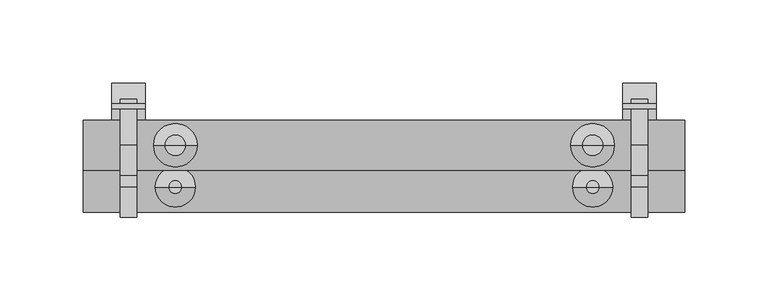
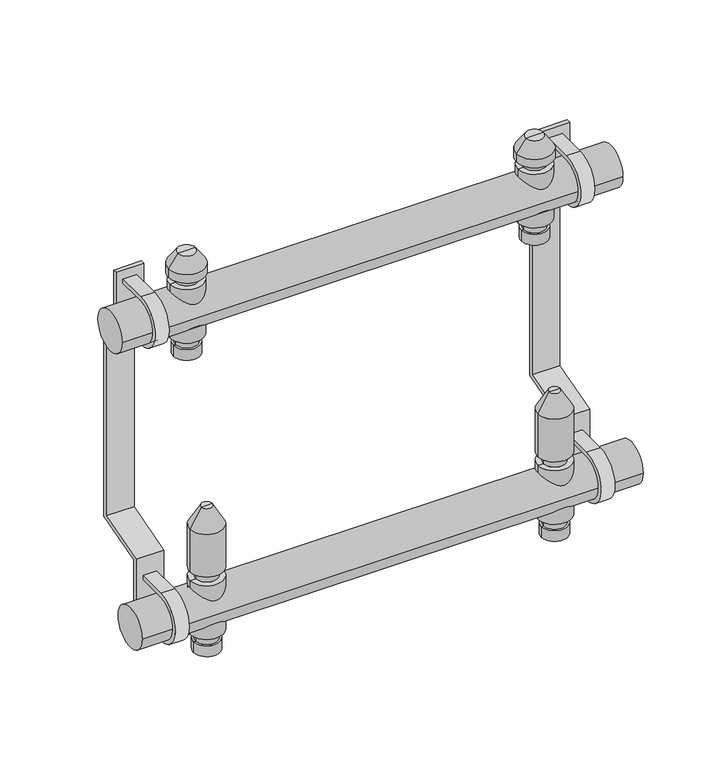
"""IFC4 building model written with IfcOpenShell, lengths in millimetres: valve geometry, PL CZ_Manifold_FT-VA : 06 circuits."""

from ifc_helpers import new_model, si_unit, point, frame, frame_2d, origin, origin_2d, place, context, project, spatial, polyline, circle_curve, trimmed, segment, composite_curve, outline, extrude, source, transform, mapped, element, save
from ifc_brep_helpers import plane_surface, cylinder_surface, revolved_surface, advanced_brep


def valve_c1a5959c(model_context):
    return source(origin(), model_context, "Body", "SolidModel", [
        advanced_brep(
        [(278.5, 0.0, -35.11267), (297.5, 0.0, -35.11267), (288.0, 0.0, -35.11267), (278.5, 0.0, -27.0369646), (297.5, 0.0, -27.0369646), (280.0, 0.0, -27.0369646), (296.0, 0.0, -27.0369646), (280.0, 0.0, -20.330253), (296.0, 0.0, -20.330253), (276.0, 0.0, -20.330253), (300.0, 0.0, -20.330253), (276.0, 0.0, 20.330253), (300.0, 0.0, 20.330253), (280.0, 0.0, 20.330253), (296.0, 0.0, 20.330253), (280.0, 0.0, 27.0474786), (296.0, 0.0, 27.0474786), (276.0, 0.0, 27.0474786), (300.0, 0.0, 27.0474786), (276.0, 0.0, 59.4084325), (300.0, 0.0, 59.4084325), (284.0, 0.0, 73.264839), (292.0, 0.0, 73.264839), (288.0, 0.0, 73.264839)],
        [
            (0, 1, circle_curve(frame((288.0, 0.0, -35.11267), z_axis=(0.0, 0.0, -1.0), x_axis=(1.0, 0.0, 0.0)), 9.5)),
            (1, 2),
            (2, 0),
            (1, 0, circle_curve(frame((288.0, 0.0, -35.11267), z_axis=(0.0, 0.0, -1.0), x_axis=(1.0, 0.0, 0.0)), 9.5)),
            (3, 4, circle_curve(frame((288.0, 0.0, -27.0369646), z_axis=(0.0, 0.0, -1.0), x_axis=(1.0, 0.0, 0.0)), 9.5)),
            (4, 1),
            (0, 3),
            (4, 3, circle_curve(frame((288.0, 0.0, -27.0369646), z_axis=(0.0, 0.0, -1.0), x_axis=(1.0, 0.0, 0.0)), 9.5)),
            (5, 6, circle_curve(frame((288.0, 0.0, -27.0369646), z_axis=(0.0, 0.0, -1.0), x_axis=(1.0, 0.0, 0.0)), 8.0)),
            (6, 4),
            (3, 5),
            (6, 5, circle_curve(frame((288.0, 0.0, -27.0369646), z_axis=(0.0, 0.0, -1.0), x_axis=(1.0, 0.0, 0.0)), 8.0)),
            (7, 8, circle_curve(frame((288.0, 0.0, -20.330253), z_axis=(0.0, 0.0, -1.0), x_axis=(1.0, 0.0, 0.0)), 8.0)),
            (8, 6),
            (5, 7),
            (8, 7, circle_curve(frame((288.0, 0.0, -20.330253), z_axis=(0.0, 0.0, -1.0), x_axis=(1.0, 0.0, 0.0)), 8.0)),
            (9, 10, circle_curve(frame((288.0, 0.0, -20.330253), z_axis=(0.0, 0.0, -1.0), x_axis=(1.0, 0.0, 0.0)), 12.0)),
            (10, 8),
            (7, 9),
            (10, 9, circle_curve(frame((288.0, 0.0, -20.330253), z_axis=(0.0, 0.0, -1.0), x_axis=(1.0, 0.0, 0.0)), 12.0)),
            (11, 12, circle_curve(frame((288.0, 0.0, 20.330253), z_axis=(0.0, 0.0, -1.0), x_axis=(1.0, 0.0, 0.0)), 12.0)),
            (12, 10),
            (9, 11),
            (12, 11, circle_curve(frame((288.0, 0.0, 20.330253), z_axis=(0.0, 0.0, -1.0), x_axis=(1.0, 0.0, 0.0)), 12.0)),
            (13, 14, circle_curve(frame((288.0, 0.0, 20.330253), z_axis=(0.0, 0.0, -1.0), x_axis=(1.0, 0.0, 0.0)), 8.0)),
            (14, 12),
            (11, 13),
            (14, 13, circle_curve(frame((288.0, 0.0, 20.330253), z_axis=(0.0, 0.0, -1.0), x_axis=(1.0, 0.0, 0.0)), 8.0)),
            (15, 16, circle_curve(frame((288.0, 0.0, 27.0474786), z_axis=(0.0, 0.0, -1.0), x_axis=(1.0, 0.0, 0.0)), 8.0)),
            (16, 14),
            (13, 15),
            (16, 15, circle_curve(frame((288.0, 0.0, 27.0474786), z_axis=(0.0, 0.0, -1.0), x_axis=(1.0, 0.0, 0.0)), 8.0)),
            (17, 18, circle_curve(frame((288.0, 0.0, 27.0474786), z_axis=(0.0, 0.0, -1.0), x_axis=(1.0, 0.0, 0.0)), 12.0)),
            (18, 16),
            (15, 17),
            (18, 17, circle_curve(frame((288.0, 0.0, 27.0474786), z_axis=(0.0, 0.0, -1.0), x_axis=(1.0, 0.0, 0.0)), 12.0)),
            (19, 20, circle_curve(frame((288.0, 0.0, 59.4084325), z_axis=(0.0, 0.0, -1.0), x_axis=(1.0, 0.0, 0.0)), 12.0)),
            (20, 18),
            (17, 19),
            (20, 19, circle_curve(frame((288.0, 0.0, 59.4084325), z_axis=(0.0, 0.0, -1.0), x_axis=(1.0, 0.0, 0.0)), 12.0)),
            (21, 22, circle_curve(frame((288.0, 0.0, 73.264839), z_axis=(0.0, 0.0, -1.0), x_axis=(1.0, 0.0, 0.0)), 4.0)),
            (22, 20),
            (19, 21),
            (22, 21, circle_curve(frame((288.0, 0.0, 73.264839), z_axis=(0.0, 0.0, -1.0), x_axis=(1.0, 0.0, 0.0)), 4.0)),
            (23, 22),
            (21, 23),
        ],
        [
            plane_surface(frame((288.0, 0.0, -35.11267), z_axis=(0.0, 0.0, -1.0), x_axis=(1.0, 0.0, 0.0))),
            cylinder_surface(frame((288.0, 0.0, 58.264839), z_axis=(0.0, 0.0, 1.0), x_axis=(1.0, 0.0, 0.0)), 9.5),
            plane_surface(frame((288.0, 0.0, -27.0369646), z_axis=(0.0, 0.0, 1.0), x_axis=(1.0, 0.0, 0.0))),
            cylinder_surface(frame((288.0, 0.0, 58.264839), z_axis=(0.0, 0.0, 1.0), x_axis=(1.0, 0.0, 0.0)), 8.0),
            plane_surface(frame((288.0, 0.0, -20.330253), z_axis=(0.0, 0.0, -1.0), x_axis=(1.0, 0.0, 0.0))),
            cylinder_surface(frame((288.0, 0.0, 58.264839), z_axis=(0.0, 0.0, 1.0), x_axis=(1.0, 0.0, 0.0)), 12.0),
            plane_surface(frame((288.0, 0.0, 20.330253), z_axis=(0.0, 0.0, 1.0), x_axis=(1.0, 0.0, 0.0))),
            plane_surface(frame((288.0, 0.0, 27.0474786), z_axis=(0.0, 0.0, -1.0), x_axis=(1.0, 0.0, 0.0))),
            revolved_surface(polyline([(300.0, 0.0, 59.4084325), (292.0, 0.0, 73.264839)]), (288.0, 0.0, 58.264839), (0.0, 0.0, 1.0)),
            plane_surface(frame((288.0, 0.0, 73.264839), z_axis=(0.0, 0.0, 1.0), x_axis=(1.0, 0.0, 0.0))),
        ],
        [
            (0, [[1, 2, 3]]),
            (0, [[4, -3, -2]]),
            (1, [[5, 6, -1, 7]]),
            (1, [[8, -7, -4, -6]]),
            (2, [[9, 10, -5, 11]]),
            (2, [[12, -11, -8, -10]]),
            (3, [[13, 14, -9, 15]]),
            (3, [[16, -15, -12, -14]]),
            (4, [[17, 18, -13, 19]]),
            (4, [[20, -19, -16, -18]]),
            (5, [[21, 22, -17, 23]]),
            (5, [[24, -23, -20, -22]]),
            (6, [[25, 26, -21, 27]]),
            (6, [[28, -27, -24, -26]]),
            (3, [[29, 30, -25, 31]]),
            (3, [[32, -31, -28, -30]]),
            (7, [[33, 34, -29, 35]]),
            (7, [[36, -35, -32, -34]]),
            (5, [[37, 38, -33, 39]]),
            (5, [[40, -39, -36, -38]]),
            (8, [[41, 42, -37, 43]]),
            (8, [[44, -43, -40, -42]]),
            (9, [[45, -41, 46]]),
            (9, [[-46, -44, -45]]),
        ],
    ),
        advanced_brep(
        [(278.5, 25.0, 174.88733), (297.5, 25.0, 174.88733), (288.0, 25.0, 174.88733), (278.5, 25.0, 182.9630354), (297.5, 25.0, 182.9630354), (280.0, 25.0, 182.9630354), (296.0, 25.0, 182.9630354), (280.0, 25.0, 189.669747), (296.0, 25.0, 189.669747), (276.0, 25.0, 189.669747), (300.0, 25.0, 189.669747), (276.0, 25.0, 230.330253), (300.0, 25.0, 230.330253), (280.0, 25.0, 230.330253), (296.0, 25.0, 230.330253), (280.0, 25.0, 236.0474786), (296.0, 25.0, 236.0474786), (275.0, 25.0, 236.0474786), (301.0, 25.0, 236.0474786), (275.0, 25.0, 242.337955), (301.0, 25.0, 242.337955), (281.6551779, 25.0, 251.842534), (294.3448221, 25.0, 251.842534), (288.0, 25.0, 251.842534)],
        [
            (0, 1, circle_curve(frame((288.0, 25.0, 174.88733), z_axis=(0.0, 0.0, -1.0), x_axis=(1.0, 0.0, 0.0)), 9.5)),
            (1, 2),
            (2, 0),
            (1, 0, circle_curve(frame((288.0, 25.0, 174.88733), z_axis=(0.0, 0.0, -1.0), x_axis=(1.0, 0.0, 0.0)), 9.5)),
            (3, 4, circle_curve(frame((288.0, 25.0, 182.9630354), z_axis=(0.0, 0.0, -1.0), x_axis=(1.0, 0.0, 0.0)), 9.5)),
            (4, 1),
            (0, 3),
            (4, 3, circle_curve(frame((288.0, 25.0, 182.9630354), z_axis=(0.0, 0.0, -1.0), x_axis=(1.0, 0.0, 0.0)), 9.5)),
            (5, 6, circle_curve(frame((288.0, 25.0, 182.9630354), z_axis=(0.0, 0.0, -1.0), x_axis=(1.0, 0.0, 0.0)), 8.0)),
            (6, 4),
            (3, 5),
            (6, 5, circle_curve(frame((288.0, 25.0, 182.9630354), z_axis=(0.0, 0.0, -1.0), x_axis=(1.0, 0.0, 0.0)), 8.0)),
            (7, 8, circle_curve(frame((288.0, 25.0, 189.669747), z_axis=(0.0, 0.0, -1.0), x_axis=(1.0, 0.0, 0.0)), 8.0)),
            (8, 6),
            (5, 7),
            (8, 7, circle_curve(frame((288.0, 25.0, 189.669747), z_axis=(0.0, 0.0, -1.0), x_axis=(1.0, 0.0, 0.0)), 8.0)),
            (9, 10, circle_curve(frame((288.0, 25.0, 189.669747), z_axis=(0.0, 0.0, -1.0), x_axis=(1.0, 0.0, 0.0)), 12.0)),
            (10, 8),
            (7, 9),
            (10, 9, circle_curve(frame((288.0, 25.0, 189.669747), z_axis=(0.0, 0.0, -1.0), x_axis=(1.0, 0.0, 0.0)), 12.0)),
            (11, 12, circle_curve(frame((288.0, 25.0, 230.330253), z_axis=(0.0, 0.0, -1.0), x_axis=(1.0, 0.0, 0.0)), 12.0)),
            (12, 10),
            (9, 11),
            (12, 11, circle_curve(frame((288.0, 25.0, 230.330253), z_axis=(0.0, 0.0, -1.0), x_axis=(1.0, 0.0, 0.0)), 12.0)),
            (13, 14, circle_curve(frame((288.0, 25.0, 230.330253), z_axis=(0.0, 0.0, -1.0), x_axis=(1.0, 0.0, 0.0)), 8.0)),
            (14, 12),
            (11, 13),
            (14, 13, circle_curve(frame((288.0, 25.0, 230.330253), z_axis=(0.0, 0.0, -1.0), x_axis=(1.0, 0.0, 0.0)), 8.0)),
            (15, 16, circle_curve(frame((288.0, 25.0, 236.0474786), z_axis=(0.0, 0.0, -1.0), x_axis=(1.0, 0.0, 0.0)), 8.0)),
            (16, 14),
            (13, 15),
            (16, 15, circle_curve(frame((288.0, 25.0, 236.0474786), z_axis=(0.0, 0.0, -1.0), x_axis=(1.0, 0.0, 0.0)), 8.0)),
            (17, 18, circle_curve(frame((288.0, 25.0, 236.0474786), z_axis=(0.0, 0.0, -1.0), x_axis=(1.0, 0.0, 0.0)), 13.0)),
            (18, 16),
            (15, 17),
            (18, 17, circle_curve(frame((288.0, 25.0, 236.0474786), z_axis=(0.0, 0.0, -1.0), x_axis=(1.0, 0.0, 0.0)), 13.0)),
            (19, 20, circle_curve(frame((288.0, 25.0, 242.337955), z_axis=(0.0, 0.0, -1.0), x_axis=(1.0, 0.0, 0.0)), 13.0)),
            (20, 18),
            (17, 19),
            (20, 19, circle_curve(frame((288.0, 25.0, 242.337955), z_axis=(0.0, 0.0, -1.0), x_axis=(1.0, 0.0, 0.0)), 13.0)),
            (21, 22, circle_curve(frame((288.0, 25.0, 251.842534), z_axis=(0.0, 0.0, -1.0), x_axis=(1.0, 0.0, 0.0)), 6.3448221)),
            (22, 20),
            (19, 21),
            (22, 21, circle_curve(frame((288.0, 25.0, 251.842534), z_axis=(0.0, 0.0, -1.0), x_axis=(1.0, 0.0, 0.0)), 6.3448221)),
            (23, 22),
            (21, 23),
        ],
        [
            plane_surface(frame((288.0, 25.0, 174.88733), z_axis=(0.0, 0.0, -1.0), x_axis=(1.0, 0.0, 0.0))),
            cylinder_surface(frame((288.0, 25.0, 247.7026565), z_axis=(0.0, 0.0, 1.0), x_axis=(1.0, 0.0, 0.0)), 9.5),
            plane_surface(frame((288.0, 25.0, 182.9630354), z_axis=(0.0, 0.0, 1.0), x_axis=(1.0, 0.0, 0.0))),
            cylinder_surface(frame((288.0, 25.0, 247.7026565), z_axis=(0.0, 0.0, 1.0), x_axis=(1.0, 0.0, 0.0)), 8.0),
            plane_surface(frame((288.0, 25.0, 189.669747), z_axis=(0.0, 0.0, -1.0), x_axis=(1.0, 0.0, 0.0))),
            cylinder_surface(frame((288.0, 25.0, 247.7026565), z_axis=(0.0, 0.0, 1.0), x_axis=(1.0, 0.0, 0.0)), 12.0),
            plane_surface(frame((288.0, 25.0, 230.330253), z_axis=(0.0, 0.0, 1.0), x_axis=(1.0, 0.0, 0.0))),
            plane_surface(frame((288.0, 25.0, 236.0474786), z_axis=(0.0, 0.0, -1.0), x_axis=(1.0, 0.0, 0.0))),
            cylinder_surface(frame((288.0, 25.0, 247.7026565), z_axis=(0.0, 0.0, 1.0), x_axis=(1.0, 0.0, 0.0)), 13.0),
            revolved_surface(polyline([(301.0, 25.0, 242.337955), (294.3448221, 25.0, 251.842534)]), (288.0, 25.0, 247.7026565), (0.0, 0.0, 1.0)),
            plane_surface(frame((288.0, 25.0, 251.842534), z_axis=(0.0, 0.0, 1.0), x_axis=(1.0, 0.0, 0.0))),
        ],
        [
            (0, [[1, 2, 3]]),
            (0, [[4, -3, -2]]),
            (1, [[5, 6, -1, 7]]),
            (1, [[8, -7, -4, -6]]),
            (2, [[9, 10, -5, 11]]),
            (2, [[12, -11, -8, -10]]),
            (3, [[13, 14, -9, 15]]),
            (3, [[16, -15, -12, -14]]),
            (4, [[17, 18, -13, 19]]),
            (4, [[20, -19, -16, -18]]),
            (5, [[21, 22, -17, 23]]),
            (5, [[24, -23, -20, -22]]),
            (6, [[25, 26, -21, 27]]),
            (6, [[28, -27, -24, -26]]),
            (3, [[29, 30, -25, 31]]),
            (3, [[32, -31, -28, -30]]),
            (7, [[33, 34, -29, 35]]),
            (7, [[36, -35, -32, -34]]),
            (8, [[37, 38, -33, 39]]),
            (8, [[40, -39, -36, -38]]),
            (9, [[41, 42, -37, 43]]),
            (9, [[44, -43, -40, -42]]),
            (10, [[45, -41, 46]]),
            (10, [[-46, -44, -45]]),
        ],
    ),
        advanced_brep(
        [(28.5, 25.0, 174.88733), (47.5, 25.0, 174.88733), (38.0, 25.0, 174.88733), (28.5, 25.0, 182.9630354), (47.5, 25.0, 182.9630354), (30.0, 25.0, 182.9630354), (46.0, 25.0, 182.9630354), (30.0, 25.0, 189.669747), (46.0, 25.0, 189.669747), (26.0, 25.0, 189.669747), (50.0, 25.0, 189.669747), (26.0, 25.0, 230.330253), (50.0, 25.0, 230.330253), (30.0, 25.0, 230.330253), (46.0, 25.0, 230.330253), (30.0, 25.0, 236.0474786), (46.0, 25.0, 236.0474786), (25.0, 25.0, 236.0474786), (51.0, 25.0, 236.0474786), (25.0, 25.0, 242.337955), (51.0, 25.0, 242.337955), (31.6551779, 25.0, 251.842534), (44.3448221, 25.0, 251.842534), (38.0, 25.0, 251.842534)],
        [
            (0, 1, circle_curve(frame((38.0, 25.0, 174.88733), z_axis=(0.0, 0.0, -1.0), x_axis=(1.0, 0.0, 0.0)), 9.5)),
            (1, 2),
            (2, 0),
            (1, 0, circle_curve(frame((38.0, 25.0, 174.88733), z_axis=(0.0, 0.0, -1.0), x_axis=(1.0, 0.0, 0.0)), 9.5)),
            (3, 4, circle_curve(frame((38.0, 25.0, 182.9630354), z_axis=(0.0, 0.0, -1.0), x_axis=(1.0, 0.0, 0.0)), 9.5)),
            (4, 1),
            (0, 3),
            (4, 3, circle_curve(frame((38.0, 25.0, 182.9630354), z_axis=(0.0, 0.0, -1.0), x_axis=(1.0, 0.0, 0.0)), 9.5)),
            (5, 6, circle_curve(frame((38.0, 25.0, 182.9630354), z_axis=(0.0, 0.0, -1.0), x_axis=(1.0, 0.0, 0.0)), 8.0)),
            (6, 4),
            (3, 5),
            (6, 5, circle_curve(frame((38.0, 25.0, 182.9630354), z_axis=(0.0, 0.0, -1.0), x_axis=(1.0, 0.0, 0.0)), 8.0)),
            (7, 8, circle_curve(frame((38.0, 25.0, 189.669747), z_axis=(0.0, 0.0, -1.0), x_axis=(1.0, 0.0, 0.0)), 8.0)),
            (8, 6),
            (5, 7),
            (8, 7, circle_curve(frame((38.0, 25.0, 189.669747), z_axis=(0.0, 0.0, -1.0), x_axis=(1.0, 0.0, 0.0)), 8.0)),
            (9, 10, circle_curve(frame((38.0, 25.0, 189.669747), z_axis=(0.0, 0.0, -1.0), x_axis=(1.0, 0.0, 0.0)), 12.0)),
            (10, 8),
            (7, 9),
            (10, 9, circle_curve(frame((38.0, 25.0, 189.669747), z_axis=(0.0, 0.0, -1.0), x_axis=(1.0, 0.0, 0.0)), 12.0)),
            (11, 12, circle_curve(frame((38.0, 25.0, 230.330253), z_axis=(0.0, 0.0, -1.0), x_axis=(1.0, 0.0, 0.0)), 12.0)),
            (12, 10),
            (9, 11),
            (12, 11, circle_curve(frame((38.0, 25.0, 230.330253), z_axis=(0.0, 0.0, -1.0), x_axis=(1.0, 0.0, 0.0)), 12.0)),
            (13, 14, circle_curve(frame((38.0, 25.0, 230.330253), z_axis=(0.0, 0.0, -1.0), x_axis=(1.0, 0.0, 0.0)), 8.0)),
            (14, 12),
            (11, 13),
            (14, 13, circle_curve(frame((38.0, 25.0, 230.330253), z_axis=(0.0, 0.0, -1.0), x_axis=(1.0, 0.0, 0.0)), 8.0)),
            (15, 16, circle_curve(frame((38.0, 25.0, 236.0474786), z_axis=(0.0, 0.0, -1.0), x_axis=(1.0, 0.0, 0.0)), 8.0)),
            (16, 14),
            (13, 15),
            (16, 15, circle_curve(frame((38.0, 25.0, 236.0474786), z_axis=(0.0, 0.0, -1.0), x_axis=(1.0, 0.0, 0.0)), 8.0)),
            (17, 18, circle_curve(frame((38.0, 25.0, 236.0474786), z_axis=(0.0, 0.0, -1.0), x_axis=(1.0, 0.0, 0.0)), 13.0)),
            (18, 16),
            (15, 17),
            (18, 17, circle_curve(frame((38.0, 25.0, 236.0474786), z_axis=(0.0, 0.0, -1.0), x_axis=(1.0, 0.0, 0.0)), 13.0)),
            (19, 20, circle_curve(frame((38.0, 25.0, 242.337955), z_axis=(0.0, 0.0, -1.0), x_axis=(1.0, 0.0, 0.0)), 13.0)),
            (20, 18),
            (17, 19),
            (20, 19, circle_curve(frame((38.0, 25.0, 242.337955), z_axis=(0.0, 0.0, -1.0), x_axis=(1.0, 0.0, 0.0)), 13.0)),
            (21, 22, circle_curve(frame((38.0, 25.0, 251.842534), z_axis=(0.0, 0.0, -1.0), x_axis=(1.0, 0.0, 0.0)), 6.3448221)),
            (22, 20),
            (19, 21),
            (22, 21, circle_curve(frame((38.0, 25.0, 251.842534), z_axis=(0.0, 0.0, -1.0), x_axis=(1.0, 0.0, 0.0)), 6.3448221)),
            (23, 22),
            (21, 23),
        ],
        [
            plane_surface(frame((38.0, 25.0, 174.88733), z_axis=(0.0, 0.0, -1.0), x_axis=(1.0, 0.0, 0.0))),
            cylinder_surface(frame((38.0, 25.0, 247.7026565), z_axis=(0.0, 0.0, 1.0), x_axis=(1.0, 0.0, 0.0)), 9.5),
            plane_surface(frame((38.0, 25.0, 182.9630354), z_axis=(0.0, 0.0, 1.0), x_axis=(1.0, 0.0, 0.0))),
            cylinder_surface(frame((38.0, 25.0, 247.7026565), z_axis=(0.0, 0.0, 1.0), x_axis=(1.0, 0.0, 0.0)), 8.0),
            plane_surface(frame((38.0, 25.0, 189.669747), z_axis=(0.0, 0.0, -1.0), x_axis=(1.0, 0.0, 0.0))),
            cylinder_surface(frame((38.0, 25.0, 247.7026565), z_axis=(0.0, 0.0, 1.0), x_axis=(1.0, 0.0, 0.0)), 12.0),
            plane_surface(frame((38.0, 25.0, 230.330253), z_axis=(0.0, 0.0, 1.0), x_axis=(1.0, 0.0, 0.0))),
            plane_surface(frame((38.0, 25.0, 236.0474786), z_axis=(0.0, 0.0, -1.0), x_axis=(1.0, 0.0, 0.0))),
            cylinder_surface(frame((38.0, 25.0, 247.7026565), z_axis=(0.0, 0.0, 1.0), x_axis=(1.0, 0.0, 0.0)), 13.0),
            revolved_surface(polyline([(51.0, 25.0, 242.337955), (44.3448221, 25.0, 251.842534)]), (38.0, 25.0, 247.7026565), (0.0, 0.0, 1.0)),
            plane_surface(frame((38.0, 25.0, 251.842534), z_axis=(0.0, 0.0, 1.0), x_axis=(1.0, 0.0, 0.0))),
        ],
        [
            (0, [[1, 2, 3]]),
            (0, [[4, -3, -2]]),
            (1, [[5, 6, -1, 7]]),
            (1, [[8, -7, -4, -6]]),
            (2, [[9, 10, -5, 11]]),
            (2, [[12, -11, -8, -10]]),
            (3, [[13, 14, -9, 15]]),
            (3, [[16, -15, -12, -14]]),
            (4, [[17, 18, -13, 19]]),
            (4, [[20, -19, -16, -18]]),
            (5, [[21, 22, -17, 23]]),
            (5, [[24, -23, -20, -22]]),
            (6, [[25, 26, -21, 27]]),
            (6, [[28, -27, -24, -26]]),
            (3, [[29, 30, -25, 31]]),
            (3, [[32, -31, -28, -30]]),
            (7, [[33, 34, -29, 35]]),
            (7, [[36, -35, -32, -34]]),
            (8, [[37, 38, -33, 39]]),
            (8, [[40, -39, -36, -38]]),
            (9, [[41, 42, -37, 43]]),
            (9, [[44, -43, -40, -42]]),
            (10, [[45, -41, 46]]),
            (10, [[-46, -44, -45]]),
        ],
    ),
        advanced_brep(
        [(28.5, 0.0, -35.11267), (47.5, 0.0, -35.11267), (38.0, 0.0, -35.11267), (28.5, 0.0, -27.0369646), (47.5, 0.0, -27.0369646), (30.0, 0.0, -27.0369646), (46.0, 0.0, -27.0369646), (30.0, 0.0, -20.330253), (46.0, 0.0, -20.330253), (26.0, 0.0, -20.330253), (50.0, 0.0, -20.330253), (26.0, 0.0, 20.330253), (50.0, 0.0, 20.330253), (30.0, 0.0, 20.330253), (46.0, 0.0, 20.330253), (30.0, 0.0, 27.0474786), (46.0, 0.0, 27.0474786), (26.0, 0.0, 27.0474786), (50.0, 0.0, 27.0474786), (26.0, 0.0, 59.4084325), (50.0, 0.0, 59.4084325), (34.0, 0.0, 73.264839), (42.0, 0.0, 73.264839), (38.0, 0.0, 73.264839)],
        [
            (0, 1, circle_curve(frame((38.0, 0.0, -35.11267), z_axis=(0.0, 0.0, -1.0), x_axis=(1.0, 0.0, 0.0)), 9.5)),
            (1, 2),
            (2, 0),
            (1, 0, circle_curve(frame((38.0, 0.0, -35.11267), z_axis=(0.0, 0.0, -1.0), x_axis=(1.0, 0.0, 0.0)), 9.5)),
            (3, 4, circle_curve(frame((38.0, 0.0, -27.0369646), z_axis=(0.0, 0.0, -1.0), x_axis=(1.0, 0.0, 0.0)), 9.5)),
            (4, 1),
            (0, 3),
            (4, 3, circle_curve(frame((38.0, 0.0, -27.0369646), z_axis=(0.0, 0.0, -1.0), x_axis=(1.0, 0.0, 0.0)), 9.5)),
            (5, 6, circle_curve(frame((38.0, 0.0, -27.0369646), z_axis=(0.0, 0.0, -1.0), x_axis=(1.0, 0.0, 0.0)), 8.0)),
            (6, 4),
            (3, 5),
            (6, 5, circle_curve(frame((38.0, 0.0, -27.0369646), z_axis=(0.0, 0.0, -1.0), x_axis=(1.0, 0.0, 0.0)), 8.0)),
            (7, 8, circle_curve(frame((38.0, 0.0, -20.330253), z_axis=(0.0, 0.0, -1.0), x_axis=(1.0, 0.0, 0.0)), 8.0)),
            (8, 6),
            (5, 7),
            (8, 7, circle_curve(frame((38.0, 0.0, -20.330253), z_axis=(0.0, 0.0, -1.0), x_axis=(1.0, 0.0, 0.0)), 8.0)),
            (9, 10, circle_curve(frame((38.0, 0.0, -20.330253), z_axis=(0.0, 0.0, -1.0), x_axis=(1.0, 0.0, 0.0)), 12.0)),
            (10, 8),
            (7, 9),
            (10, 9, circle_curve(frame((38.0, 0.0, -20.330253), z_axis=(0.0, 0.0, -1.0), x_axis=(1.0, 0.0, 0.0)), 12.0)),
            (11, 12, circle_curve(frame((38.0, 0.0, 20.330253), z_axis=(0.0, 0.0, -1.0), x_axis=(1.0, 0.0, 0.0)), 12.0)),
            (12, 10),
            (9, 11),
            (12, 11, circle_curve(frame((38.0, 0.0, 20.330253), z_axis=(0.0, 0.0, -1.0), x_axis=(1.0, 0.0, 0.0)), 12.0)),
            (13, 14, circle_curve(frame((38.0, 0.0, 20.330253), z_axis=(0.0, 0.0, -1.0), x_axis=(1.0, 0.0, 0.0)), 8.0)),
            (14, 12),
            (11, 13),
            (14, 13, circle_curve(frame((38.0, 0.0, 20.330253), z_axis=(0.0, 0.0, -1.0), x_axis=(1.0, 0.0, 0.0)), 8.0)),
            (15, 16, circle_curve(frame((38.0, 0.0, 27.0474786), z_axis=(0.0, 0.0, -1.0), x_axis=(1.0, 0.0, 0.0)), 8.0)),
            (16, 14),
            (13, 15),
            (16, 15, circle_curve(frame((38.0, 0.0, 27.0474786), z_axis=(0.0, 0.0, -1.0), x_axis=(1.0, 0.0, 0.0)), 8.0)),
            (17, 18, circle_curve(frame((38.0, 0.0, 27.0474786), z_axis=(0.0, 0.0, -1.0), x_axis=(1.0, 0.0, 0.0)), 12.0)),
            (18, 16),
            (15, 17),
            (18, 17, circle_curve(frame((38.0, 0.0, 27.0474786), z_axis=(0.0, 0.0, -1.0), x_axis=(1.0, 0.0, 0.0)), 12.0)),
            (19, 20, circle_curve(frame((38.0, 0.0, 59.4084325), z_axis=(0.0, 0.0, -1.0), x_axis=(1.0, 0.0, 0.0)), 12.0)),
            (20, 18),
            (17, 19),
            (20, 19, circle_curve(frame((38.0, 0.0, 59.4084325), z_axis=(0.0, 0.0, -1.0), x_axis=(1.0, 0.0, 0.0)), 12.0)),
            (21, 22, circle_curve(frame((38.0, 0.0, 73.264839), z_axis=(0.0, 0.0, -1.0), x_axis=(1.0, 0.0, 0.0)), 4.0)),
            (22, 20),
            (19, 21),
            (22, 21, circle_curve(frame((38.0, 0.0, 73.264839), z_axis=(0.0, 0.0, -1.0), x_axis=(1.0, 0.0, 0.0)), 4.0)),
            (23, 22),
            (21, 23),
        ],
        [
            plane_surface(frame((38.0, 0.0, -35.11267), z_axis=(0.0, 0.0, -1.0), x_axis=(1.0, 0.0, 0.0))),
            cylinder_surface(frame((38.0, 0.0, 58.264839), z_axis=(0.0, 0.0, 1.0), x_axis=(1.0, 0.0, 0.0)), 9.5),
            plane_surface(frame((38.0, 0.0, -27.0369646), z_axis=(0.0, 0.0, 1.0), x_axis=(1.0, 0.0, 0.0))),
            cylinder_surface(frame((38.0, 0.0, 58.264839), z_axis=(0.0, 0.0, 1.0), x_axis=(1.0, 0.0, 0.0)), 8.0),
            plane_surface(frame((38.0, 0.0, -20.330253), z_axis=(0.0, 0.0, -1.0), x_axis=(1.0, 0.0, 0.0))),
            cylinder_surface(frame((38.0, 0.0, 58.264839), z_axis=(0.0, 0.0, 1.0), x_axis=(1.0, 0.0, 0.0)), 12.0),
            plane_surface(frame((38.0, 0.0, 20.330253), z_axis=(0.0, 0.0, 1.0), x_axis=(1.0, 0.0, 0.0))),
            plane_surface(frame((38.0, 0.0, 27.0474786), z_axis=(0.0, 0.0, -1.0), x_axis=(1.0, 0.0, 0.0))),
            revolved_surface(polyline([(50.0, 0.0, 59.4084325), (42.0, 0.0, 73.264839)]), (38.0, 0.0, 58.264839), (0.0, 0.0, 1.0)),
            plane_surface(frame((38.0, 0.0, 73.264839), z_axis=(0.0, 0.0, 1.0), x_axis=(1.0, 0.0, 0.0))),
        ],
        [
            (0, [[1, 2, 3]]),
            (0, [[4, -3, -2]]),
            (1, [[5, 6, -1, 7]]),
            (1, [[8, -7, -4, -6]]),
            (2, [[9, 10, -5, 11]]),
            (2, [[12, -11, -8, -10]]),
            (3, [[13, 14, -9, 15]]),
            (3, [[16, -15, -12, -14]]),
            (4, [[17, 18, -13, 19]]),
            (4, [[20, -19, -16, -18]]),
            (5, [[21, 22, -17, 23]]),
            (5, [[24, -23, -20, -22]]),
            (6, [[25, 26, -21, 27]]),
            (6, [[28, -27, -24, -26]]),
            (3, [[29, 30, -25, 31]]),
            (3, [[32, -31, -28, -30]]),
            (7, [[33, 34, -29, 35]]),
            (7, [[36, -35, -32, -34]]),
            (5, [[37, 38, -33, 39]]),
            (5, [[40, -39, -36, -38]]),
            (8, [[41, 42, -37, 43]]),
            (8, [[44, -43, -40, -42]]),
            (9, [[45, -41, 46]]),
            (9, [[-46, -44, -45]]),
        ],
    ),
        extrude(outline(composite_curve([segment(trimmed(circle_curve(origin_2d(), 15.0), [point((0.0, 15.0))], [point((0.0, -15.0))], True, "CARTESIAN"), True, "CONTINUOUS"), segment(polyline([(0.0, -15.0), (27.6751284, -15.0), (27.6751284, -18.0), (0.0, -18.0)]), True, "CONTINUOUS"), segment(trimmed(circle_curve(origin_2d(), 18.0), [point((0.0, -18.0))], [point((0.0, 18.0))], False, "CARTESIAN"), True, "CONTINUOUS"), segment(polyline([(0.0, 18.0), (27.6751284, 18.0), (27.6751284, 15.0), (0.0, 15.0)]), True, "CONTINUOUS")], self_intersect=False)), frame((311.0, 0.0, 0.0), z_axis=(1.0, 0.0, 0.0), x_axis=(0.0, 1.0, 0.0)), (0.0, 0.0, 1.0), 10.0),
        extrude(outline(composite_curve([segment(trimmed(circle_curve(frame_2d((25.0, 210.0)), 15.0), [point((25.0, 225.0))], [point((25.0, 195.0))], True, "CARTESIAN"), True, "CONTINUOUS"), segment(polyline([(25.0, 195.0), (52.6751284, 195.0), (52.6751284, 192.0), (25.0, 192.0)]), True, "CONTINUOUS"), segment(trimmed(circle_curve(frame_2d((25.0, 210.0)), 18.0), [point((25.0, 192.0))], [point((25.0, 228.0))], False, "CARTESIAN"), True, "CONTINUOUS"), segment(polyline([(25.0, 228.0), (52.6751284, 228.0), (52.6751284, 225.0), (25.0, 225.0)]), True, "CONTINUOUS")], self_intersect=False)), frame((311.0, 0.0, 0.0), z_axis=(1.0, 0.0, 0.0), x_axis=(0.0, 1.0, 0.0)), (0.0, 0.0, 1.0), 10.0),
        extrude(outline(polyline([(62.0, 182.8840762), (62.0, 40.6095793), (25.0, 30.0), (25.0, -30.0), (22.0, -30.0), (22.0, 32.2606622), (59.0, 42.8702414), (59.0, 180.3667773), (47.0, 182.4827011), (47.0, 235.0), (50.0, 235.0), (50.0, 185.0), (62.0, 182.8840762)])), frame((306.0, 0.0, 0.0), z_axis=(1.0, 0.0, 0.0), x_axis=(0.0, 1.0, 0.0)), (0.0, 0.0, 1.0), 20.0),
        extrude(outline(composite_curve([segment(trimmed(circle_curve(origin_2d(), 15.0), [point((0.0, 15.0))], [point((0.0, -15.0))], True, "CARTESIAN"), True, "CONTINUOUS"), segment(polyline([(0.0, -15.0), (27.6751284, -15.0), (27.6751284, -18.0), (0.0, -18.0)]), True, "CONTINUOUS"), segment(trimmed(circle_curve(origin_2d(), 18.0), [point((0.0, -18.0))], [point((0.0, 18.0))], False, "CARTESIAN"), True, "CONTINUOUS"), segment(polyline([(0.0, 18.0), (27.6751284, 18.0), (27.6751284, 15.0), (0.0, 15.0)]), True, "CONTINUOUS")], self_intersect=False)), frame((5.0, 0.0, 0.0), z_axis=(1.0, 0.0, 0.0), x_axis=(0.0, 1.0, 0.0)), (0.0, 0.0, 1.0), 10.0),
        extrude(outline(composite_curve([segment(trimmed(circle_curve(frame_2d((25.0, 210.0)), 15.0), [point((25.0, 225.0))], [point((25.0, 195.0))], True, "CARTESIAN"), True, "CONTINUOUS"), segment(polyline([(25.0, 195.0), (52.6751284, 195.0), (52.6751284, 192.0), (25.0, 192.0)]), True, "CONTINUOUS"), segment(trimmed(circle_curve(frame_2d((25.0, 210.0)), 18.0), [point((25.0, 192.0))], [point((25.0, 228.0))], False, "CARTESIAN"), True, "CONTINUOUS"), segment(polyline([(25.0, 228.0), (52.6751284, 228.0), (52.6751284, 225.0), (25.0, 225.0)]), True, "CONTINUOUS")], self_intersect=False)), frame((5.0, 0.0, 0.0), z_axis=(1.0, 0.0, 0.0), x_axis=(0.0, 1.0, 0.0)), (0.0, 0.0, 1.0), 10.0),
        extrude(outline(polyline([(62.0, 182.8840762), (62.0, 40.6095793), (25.0, 30.0), (25.0, -30.0), (22.0, -30.0), (22.0, 32.2606622), (59.0, 42.8702414), (59.0, 180.3667773), (47.0, 182.4827011), (47.0, 235.0), (50.0, 235.0), (50.0, 185.0), (62.0, 182.8840762)])), frame((0.0, 0.0, 0.0), z_axis=(1.0, 0.0, 0.0), x_axis=(0.0, 1.0, 0.0)), (0.0, 0.0, 1.0), 20.0),
        extrude(outline(composite_curve([segment(trimmed(circle_curve(origin_2d(), 15.0), [point((15.0, 0.0))], [point((-15.0, 0.0))], False, "CARTESIAN"), True, "CONTINUOUS"), segment(trimmed(circle_curve(origin_2d(), 15.0), [point((-15.0, 0.0))], [point((15.0, 0.0))], False, "CARTESIAN"), True, "CONTINUOUS")], self_intersect=False)), frame((-17.0, 0.0, 0.0), z_axis=(1.0, 0.0, 0.0), x_axis=(0.0, 1.0, 0.0)), (0.0, 0.0, 1.0), 360.0),
        extrude(outline(composite_curve([segment(trimmed(circle_curve(frame_2d((25.0, 210.0)), 15.0), [point((40.0, 210.0))], [point((10.0, 210.0))], False, "CARTESIAN"), True, "CONTINUOUS"), segment(trimmed(circle_curve(frame_2d((25.0, 210.0)), 15.0), [point((10.0, 210.0))], [point((40.0, 210.0))], False, "CARTESIAN"), True, "CONTINUOUS")], self_intersect=False)), frame((-17.0, 0.0, 0.0), z_axis=(1.0, 0.0, 0.0), x_axis=(0.0, 1.0, 0.0)), (0.0, 0.0, 1.0), 360.0),
    ])


if __name__ == "__main__":
    model = new_model("IFC4")
    model_context = context("Model", 3, world=origin())
    ifc_project = project(units=[si_unit("LENGTHUNIT", "METRE", prefix="MILLI")], contexts=[model_context])
    site = spatial("IfcSite", under=ifc_project)
    building = spatial("IfcBuilding", under=site)
    placement = place(None, origin())
    valve_shape = valve_c1a5959c(model_context)
    element("IfcValve", 1, ObjectType="PL CZ_Manifold_FT-VA : 06 circuits", at=placement, inside=building, context=model_context, shape_type="MappedRepresentation", body=[
        mapped(valve_shape, transform((0.0, 0.0, 0.0), x_axis=(1.0, 0.0, 0.0), y_axis=(0.0, 1.0, 0.0), z_axis=(0.0, 0.0, 1.0))),
    ])
    save(model, "model.ifc")
